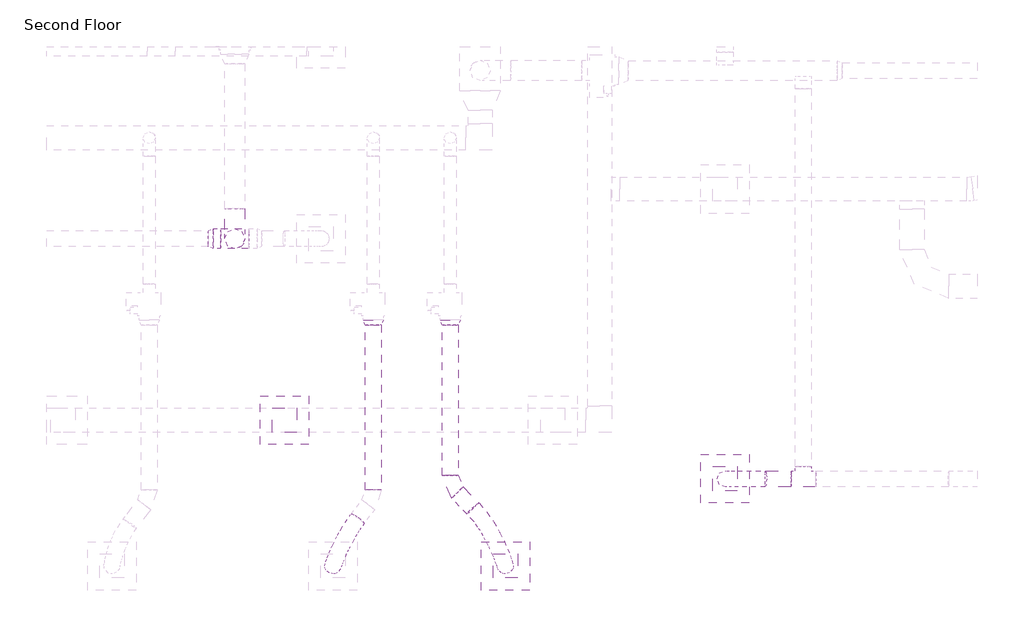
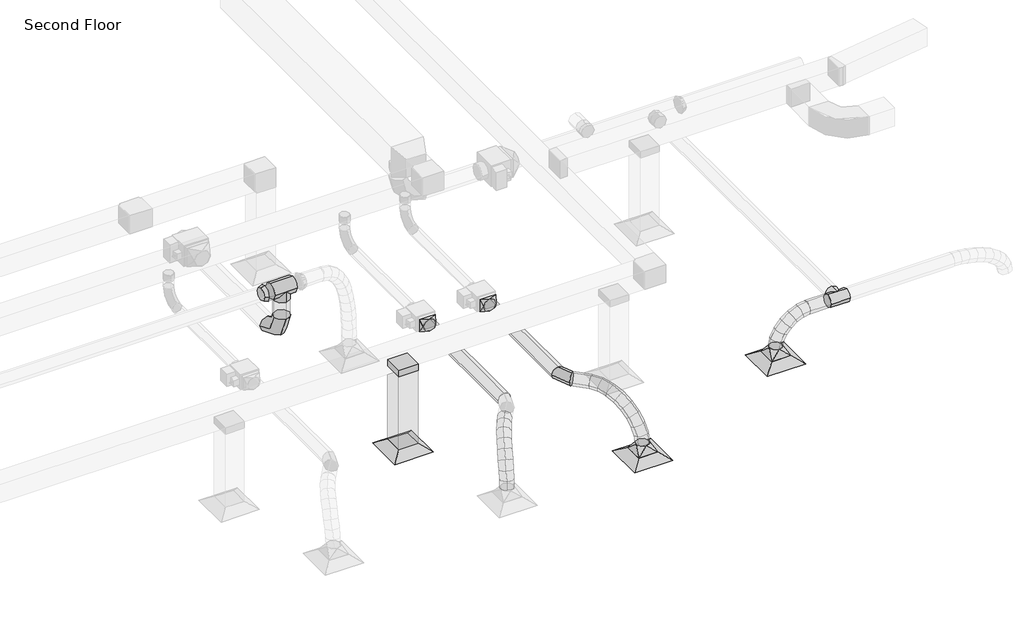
# One storey, part 8 of 44: 10 duct fittings, 10 duct segments, 3 air terminals.
"""IFC4 building model written with IfcOpenShell, lengths in millimetres."""

from ifc_helpers import new_model, si_unit, point, frame, frame_2d, origin, place, context, project, spatial, polyline, circle_curve, ellipse_curve, trimmed, segment, composite_curve, outline, extrude, transform, mapped, element, save
from ifc_brep_helpers import plane_surface, cylinder_surface, advanced_brep
from components import m_exhaust_grill_er_600_x_600_face_300_x_300_connection_ff221211, m_rectangular_takeoff_standard_c00386d1, m_rectangular_to_round_transition_angle_45_degree_60daae35, m_rectangular_to_round_transition_angle_45_degree_1b7ae117, m_round_elbow_1_5_d_f3829448, m_round_elbow_1_5_d_4a9a621c, m_round_tee_standard_d0ec91cd, m_round_tee_standard_11950e83, m_round_transition_angle_45_degree_f1400fe6

model = new_model("IFC4")

# Units and contexts
model_context = context("Model", 3, world=origin())
ifc_project = project(units=[si_unit("LENGTHUNIT", "METRE", prefix="MILLI")], contexts=[model_context])

# Site, building, storey
site = spatial("IfcSite", under=ifc_project)
building = spatial("IfcBuilding", under=site)
storey = spatial("IfcBuildingStorey", under=building, Name="Second Floor", Elevation=4570.0)

# Air terminals
placement = place(None, origin())
m_exhaust_grill_er_600_x_600_face_300_x_300_connection_shape = m_exhaust_grill_er_600_x_600_face_300_x_300_connection_ff221211(model_context)
element("IfcAirTerminal", 1, ObjectType="M_Return Register : RR-600 x 600 Face 300 x 300 Connection", at=placement, inside=storey, context=model_context, shape_type="MappedRepresentation", body=[
    mapped(m_exhaust_grill_er_600_x_600_face_300_x_300_connection_shape, transform((-30484.4701635, 12657.116341, 7250.0), x_axis=(1.0, 0.0, 0.0), y_axis=(0.0, 1.0, 0.0), z_axis=(0.0, 0.0, 1.0))),
])
element("IfcAirTerminal", 2, ObjectType="M_Supply Diffuser : SD-600 x 600 Face 300 x 300 Connection", at=placement, inside=storey, context=model_context, shape_type="MappedRepresentation", body=[
    mapped(m_exhaust_grill_er_600_x_600_face_300_x_300_connection_shape, transform((-25044.1448371, 11932.5353347, 7250.0), x_axis=(1.0, 0.0, 0.0), y_axis=(0.0, 1.0, 0.0), z_axis=(0.0, 0.0, 1.0))),
])
element("IfcAirTerminal", 3, ObjectType="M_Supply Diffuser : SD-600 x 600 Face 300 x 300 Connection", at=placement, inside=storey, context=model_context, shape_type="MappedRepresentation", body=[
    mapped(m_exhaust_grill_er_600_x_600_face_300_x_300_connection_shape, transform((-27756.7840351, 10855.5728123, 7250.0), x_axis=(1.0, 0.0, 0.0), y_axis=(0.0, 1.0, 0.0), z_axis=(0.0, 0.0, 1.0))),
])

# Duct fittings
m_rectangular_takeoff_standard_shape = m_rectangular_takeoff_standard_c00386d1(model_context)
element("IfcDuctFitting", 4, ObjectType="M_Rectangular Takeoff : Standard", at=placement, inside=storey, context=model_context, shape_type="MappedRepresentation", body=[
    mapped(m_rectangular_takeoff_standard_shape, transform((-30484.4701635, 12657.116341, 8670.0), x_axis=(0.0, 0.0, -1.0), y_axis=(0.0, 1.0, 0.0), z_axis=(1.0, 0.0, 0.0))),
])
m_rectangular_to_round_transition_angle_45_degree_shape = m_rectangular_to_round_transition_angle_45_degree_60daae35(model_context)
element("IfcDuctFitting", 5, ObjectType="M_Rectangular to Round Transition - Angle : 45 Degree", at=placement, inside=storey, context=model_context, shape_type="MappedRepresentation", body=[
    mapped(m_rectangular_to_round_transition_angle_45_degree_shape, transform((-27756.7840351, 10855.5728123, 7351.6), x_axis=(0.0, 0.0, 1.0), y_axis=(1.0, 0.0, 0.0), z_axis=(0.0, 1.0, 0.0))),
])
element("IfcDuctFitting", 6, ObjectType="M_Rectangular to Round Transition - Angle : 45 Degree", at=placement, inside=storey, context=model_context, shape_type="MappedRepresentation", body=[
    mapped(m_rectangular_to_round_transition_angle_45_degree_shape, transform((-25044.1448371, 11932.5353347, 7351.6), x_axis=(0.0, 0.0, 1.0), y_axis=(1.0, 0.0, 0.0), z_axis=(0.0, 1.0, 0.0))),
])
m_rectangular_to_round_transition_angle_45_degree_2_shape = m_rectangular_to_round_transition_angle_45_degree_1b7ae117(model_context)
element("IfcDuctFitting", 7, ObjectType="M_Rectangular to Round Transition - Angle : 45 Degree", at=placement, inside=storey, context=model_context, shape_type="MappedRepresentation", body=[
    mapped(m_rectangular_to_round_transition_angle_45_degree_2_shape, transform((-28438.8864557, 13891.8174916, 8189.05), x_axis=(0.0, -1.0, 0.0), y_axis=(1.0, 0.0, 0.0), z_axis=(0.0, 0.0, 1.0))),
])
element("IfcDuctFitting", 8, ObjectType="M_Rectangular to Round Transition - Angle : 45 Degree", at=placement, inside=storey, context=model_context, shape_type="MappedRepresentation", body=[
    mapped(m_rectangular_to_round_transition_angle_45_degree_2_shape, transform((-29388.5682282, 13891.8174916, 8189.05), x_axis=(0.0, -1.0, 0.0), y_axis=(1.0, 0.0, 0.0), z_axis=(0.0, 0.0, 1.0))),
])
m_round_elbow_1_5_d_shape = m_round_elbow_1_5_d_f3829448(model_context)
element("IfcDuctFitting", 9, ObjectType="M_Round Elbow : 1.5 D", at=placement, inside=storey, context=model_context, shape_type="MappedRepresentation", body=[
    mapped(m_round_elbow_1_5_d_shape, transform((-28438.8864557, 11848.6830646, 8189.1), x_axis=(0.0, -1.0, 0.0), y_axis=(1.0, 0.0, 0.0), z_axis=(0.0, 0.0, 1.0))),
])
m_round_elbow_1_5_d_2_shape = m_round_elbow_1_5_d_4a9a621c(model_context)
element("IfcDuctFitting", 10, ObjectType="M_Round Elbow : 1.5 D", at=placement, inside=storey, context=model_context, shape_type="MappedRepresentation", body=[
    mapped(m_round_elbow_1_5_d_2_shape, transform((-31098.3994281, 14899.476398, 7939.1), x_axis=(0.0, -1.0, 0.0), y_axis=(0.0, 0.0, 1.0), z_axis=(-1.0, 0.0, 0.0))),
])
m_round_tee_standard_shape = m_round_tee_standard_d0ec91cd(model_context)
element("IfcDuctFitting", 11, ObjectType="M_Round Tee : Standard", at=placement, inside=storey, context=model_context, shape_type="MappedRepresentation", body=[
    mapped(m_round_tee_standard_shape, transform((-24077.0880997, 11932.5353347, 7939.1), x_axis=(-1.0, 0.0, 0.0), y_axis=(0.0, -1.0, 0.0), z_axis=(0.0, 0.0, 1.0))),
])
m_round_tee_standard_2_shape = m_round_tee_standard_11950e83(model_context)
element("IfcDuctFitting", 12, ObjectType="M_Round Tee : Standard", at=placement, inside=storey, context=model_context, shape_type="MappedRepresentation", body=[
    mapped(m_round_tee_standard_2_shape, transform((-31098.3994281, 14899.476398, 8770.0), x_axis=(1.0, 0.0, 0.0), y_axis=(0.0, 0.0, 1.0), z_axis=(0.0, -1.0, 0.0))),
])
m_round_transition_angle_45_degree_shape = m_round_transition_angle_45_degree_f1400fe6(model_context)
element("IfcDuctFitting", 13, ObjectType="M_Round Transition - Angle : 45 Degree", at=placement, inside=storey, context=model_context, shape_type="MappedRepresentation", body=[
    mapped(m_round_transition_angle_45_degree_shape, transform((-31423.5066177, 14899.476398, 8770.0), x_axis=(1.0, 0.0, 0.0), y_axis=(0.0, 1.0, 0.0), z_axis=(0.0, 0.0, 1.0))),
])

# Duct segments
element("IfcDuctSegment", 14, ObjectType="Flex - Round", at=placement, inside=storey, context=model_context, shape_type="AdvancedBrep", body=[
    advanced_brep(
    [(-29497.8890212, 11383.5971069, 8189.1), (-29571.5417404, 11452.7195045, 8090.1183295), (-29661.5569145, 11498.5441411, 8189.1), (-29587.9041954, 11429.4217434, 8288.0816705), (-29565.9046767, 11286.7526851, 8172.0808828), (-29634.2238646, 11363.4692573, 8074.4337873), (-29733.142023, 11396.6173364, 8171.1877217), (-29664.8228351, 11319.9007643, 8268.8348172), (-29799.5639468, 10807.5244034, 7474.3208275), (-29935.1565217, 10768.6476595, 7484.482148), (-29974.9185556, 10903.6212211, 7470.3005288), (-29839.3259808, 10942.497965, 7460.1392083), (-29624.8106606, 11189.6901283, 8125.245008), (-29684.7903806, 11280.1480901, 8034.2285848), (-29797.0303638, 11291.3450823, 8120.3903981), (-29737.0506438, 11200.8871205, 8211.4068213), (-29676.240355, 11093.772452, 8052.2726018), (-29730.2333137, 11195.3958745, 7969.750656), (-29851.0316039, 11190.6314086, 8043.7692851), (-29797.0386452, 11089.0079861, 8126.2912309), (-29719.4346291, 11004.1066422, 7958.0897043), (-29768.8896513, 11115.1502427, 7885.4624961), (-29895.3479235, 11098.6363752, 7947.1398248), (-29845.8929013, 10987.5927747, 8019.7670331), (-29753.8190012, 10925.696645, 7847.8688738), (-29799.5915698, 11045.1376992, 7787.0459552), (-29929.9968533, 11019.6230815, 7836.0709413), (-29884.2242846, 10900.1820273, 7896.8938599), (-29778.9390074, 10863.4387072, 7726.7753104), (-29821.6139636, 10990.5569474, 7680.8847498), (-29954.8759065, 10957.9623265, 7716.1389164), (-29912.2009503, 10830.8440862, 7762.0294769), (-29794.3768651, 10822.2409268, 7599.8419427), (-29834.6245019, 10955.8367609, 7573.9093215), (-29969.8459151, 10918.0130576, 7593.0523037), (-29929.5982783, 10784.4172235, 7618.984925)],
    [
        (0, 1, circle_curve(frame((-29579.7229679, 11441.070624, 8189.1), z_axis=(0.568882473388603, 0.8100060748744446, 0.14234777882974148), x_axis=(0.8183394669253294, -0.5747351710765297, 0.0)), 100.0)),
        (1, 2, circle_curve(frame((-29579.7229679, 11441.070624, 8189.1), z_axis=(0.568882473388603, 0.8100060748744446, 0.14234777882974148), x_axis=(0.8183394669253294, -0.5747351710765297, 0.0)), 100.0)),
        (2, 3, circle_curve(frame((-29579.7229679, 11441.070624, 8189.1), z_axis=(0.568882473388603, 0.8100060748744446, 0.14234777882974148), x_axis=(0.8183394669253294, -0.5747351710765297, 0.0)), 100.0)),
        (3, 0, circle_curve(frame((-29579.7229679, 11441.070624, 8189.1), z_axis=(0.568882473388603, 0.8100060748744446, 0.14234777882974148), x_axis=(0.8183394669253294, -0.5747351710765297, 0.0)), 100.0)),
        (0, 4),
        (4, 5, ellipse_curve(frame((-29649.5233499, 11341.6850108, 8171.6343022), z_axis=(0.528592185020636, 0.8067759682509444, 0.26401295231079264), x_axis=(0.3488692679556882, 0.07706942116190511, -0.9339970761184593)), 100.8286174, 100.0)),
        (5, 1),
        (5, 6, ellipse_curve(frame((-29649.5233499, 11341.6850108, 8171.6343022), z_axis=(0.528592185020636, 0.8067759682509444, 0.26401295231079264), x_axis=(0.3488692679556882, 0.07706942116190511, -0.9339970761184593)), 100.8286174, 100.0)),
        (6, 2),
        (6, 7, ellipse_curve(frame((-29649.5233499, 11341.6850108, 8171.6343022), z_axis=(0.528592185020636, 0.8067759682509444, 0.26401295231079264), x_axis=(0.3488692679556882, 0.07706942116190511, -0.9339970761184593)), 100.8286174, 100.0)),
        (7, 3),
        (7, 4, ellipse_curve(frame((-29649.5233499, 11341.6850108, 8171.6343022), z_axis=(0.528592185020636, 0.8067759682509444, 0.26401295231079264), x_axis=(0.3488692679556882, 0.07706942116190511, -0.9339970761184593)), 100.8286174, 100.0)),
        (8, 9, circle_curve(frame((-29887.2412512, 10855.5728123, 7472.3106781), z_axis=(-0.04100872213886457, -0.1163478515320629, -0.9923615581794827), x_axis=(0.8767730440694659, -0.4804840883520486, 0.020101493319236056)), 100.0)),
        (9, 10, circle_curve(frame((-29887.2412512, 10855.5728123, 7472.3106781), z_axis=(-0.04100872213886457, -0.1163478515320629, -0.9923615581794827), x_axis=(0.8767730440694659, -0.4804840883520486, 0.020101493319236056)), 100.0)),
        (10, 11, circle_curve(frame((-29887.2412512, 10855.5728123, 7472.3106781), z_axis=(-0.04100872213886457, -0.1163478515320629, -0.9923615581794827), x_axis=(0.8767730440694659, -0.4804840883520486, 0.020101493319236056)), 100.0)),
        (11, 8, circle_curve(frame((-29887.2412512, 10855.5728123, 7472.3106781), z_axis=(-0.04100872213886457, -0.1163478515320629, -0.9923615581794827), x_axis=(0.8767730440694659, -0.4804840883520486, 0.020101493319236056)), 100.0)),
        (4, 12),
        (12, 13, ellipse_curve(frame((-29710.9205122, 11240.5176053, 8122.817703), z_axis=(0.4383477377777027, 0.7651519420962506, 0.4715864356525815), x_axis=(0.42611000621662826, 0.28505919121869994, -0.8585869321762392)), 100.5267215, 100.0)),
        (13, 5),
        (13, 14, ellipse_curve(frame((-29710.9205122, 11240.5176053, 8122.817703), z_axis=(0.4383477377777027, 0.7651519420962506, 0.4715864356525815), x_axis=(0.42611000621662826, 0.28505919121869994, -0.8585869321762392)), 100.5267215, 100.0)),
        (14, 6),
        (14, 15, ellipse_curve(frame((-29710.9205122, 11240.5176053, 8122.817703), z_axis=(0.4383477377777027, 0.7651519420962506, 0.4715864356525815), x_axis=(0.42611000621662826, 0.28505919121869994, -0.8585869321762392)), 100.5267215, 100.0)),
        (15, 7),
        (15, 12, ellipse_curve(frame((-29710.9205122, 11240.5176053, 8122.817703), z_axis=(0.4383477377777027, 0.7651519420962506, 0.4715864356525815), x_axis=(0.42611000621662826, 0.28505919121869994, -0.8585869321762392)), 100.5267215, 100.0)),
        (12, 16),
        (16, 17, ellipse_curve(frame((-29763.6359794, 11142.2019303, 8048.0209434), z_axis=(0.35514771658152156, 0.6957129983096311, 0.6243825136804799), x_axis=(0.45360584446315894, 0.45576696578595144, -0.7658447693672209)), 100.3646243, 100.0)),
        (17, 13),
        (17, 18, ellipse_curve(frame((-29763.6359794, 11142.2019303, 8048.0209434), z_axis=(0.35514771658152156, 0.6957129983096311, 0.6243825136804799), x_axis=(0.45360584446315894, 0.45576696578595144, -0.7658447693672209)), 100.3646243, 100.0)),
        (18, 14),
        (18, 19, ellipse_curve(frame((-29763.6359794, 11142.2019303, 8048.0209434), z_axis=(0.35514771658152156, 0.6957129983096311, 0.6243825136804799), x_axis=(0.45360584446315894, 0.45576696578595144, -0.7658447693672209)), 100.3646243, 100.0)),
        (19, 15),
        (19, 16, ellipse_curve(frame((-29763.6359794, 11142.2019303, 8048.0209434), z_axis=(0.35514771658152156, 0.6957129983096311, 0.6243825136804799), x_axis=(0.45360584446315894, 0.45576696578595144, -0.7658447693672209)), 100.3646243, 100.0)),
        (16, 20),
        (20, 21, ellipse_curve(frame((-29807.3912763, 11051.3715087, 7952.6147646), z_axis=(0.28163438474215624, 0.6099060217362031, 0.7407406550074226), x_axis=(0.4464182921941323, 0.6000610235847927, -0.6638053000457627)), 100.2987715, 100.0)),
        (21, 17),
        (21, 22, ellipse_curve(frame((-29807.3912763, 11051.3715087, 7952.6147646), z_axis=(0.28163438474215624, 0.6099060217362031, 0.7407406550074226), x_axis=(0.4464182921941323, 0.6000610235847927, -0.6638053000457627)), 100.2987715, 100.0)),
        (22, 18),
        (22, 23, ellipse_curve(frame((-29807.3912763, 11051.3715087, 7952.6147646), z_axis=(0.28163438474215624, 0.6099060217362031, 0.7407406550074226), x_axis=(0.4464182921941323, 0.6000610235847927, -0.6638053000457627)), 100.2987715, 100.0)),
        (23, 19),
        (23, 20, ellipse_curve(frame((-29807.3912763, 11051.3715087, 7952.6147646), z_axis=(0.28163438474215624, 0.6099060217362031, 0.7407406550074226), x_axis=(0.4464182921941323, 0.6000610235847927, -0.6638053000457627)), 100.2987715, 100.0)),
        (20, 24),
        (24, 25, ellipse_curve(frame((-29841.9079272, 10972.6598633, 7841.9699075), z_axis=(0.2145397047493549, 0.5072530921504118, 0.8346658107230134), x_axis=(0.41920572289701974, 0.7240290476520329, -0.5477668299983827)), 100.3013056, 100.0)),
        (25, 21),
        (25, 26, ellipse_curve(frame((-29841.9079272, 10972.6598633, 7841.9699075), z_axis=(0.2145397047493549, 0.5072530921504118, 0.8346658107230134), x_axis=(0.41920572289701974, 0.7240290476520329, -0.5477668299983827)), 100.3013056, 100.0)),
        (26, 22),
        (26, 27, ellipse_curve(frame((-29841.9079272, 10972.6598633, 7841.9699075), z_axis=(0.2145397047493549, 0.5072530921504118, 0.8346658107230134), x_axis=(0.41920572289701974, 0.7240290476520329, -0.5477668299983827)), 100.3013056, 100.0)),
        (27, 23),
        (27, 24, ellipse_curve(frame((-29841.9079272, 10972.6598633, 7841.9699075), z_axis=(0.2145397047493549, 0.5072530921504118, 0.8346658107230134), x_axis=(0.41920572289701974, 0.7240290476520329, -0.5477668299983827)), 100.3013056, 100.0)),
        (24, 28),
        (28, 29, ellipse_curve(frame((-29866.907457, 10910.7005168, 7721.4571134), z_axis=(0.14872586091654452, 0.37957456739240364, 0.9131285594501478), x_axis=(0.3852460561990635, 0.8282033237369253, -0.40701932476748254)), 100.3746817, 100.0)),
        (29, 25),
        (29, 30, ellipse_curve(frame((-29866.907457, 10910.7005168, 7721.4571134), z_axis=(0.14872586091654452, 0.37957456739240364, 0.9131285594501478), x_axis=(0.3852460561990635, 0.8282033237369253, -0.40701932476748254)), 100.3746817, 100.0)),
        (30, 26),
        (30, 31, ellipse_curve(frame((-29866.907457, 10910.7005168, 7721.4571134), z_axis=(0.14872586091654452, 0.37957456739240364, 0.9131285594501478), x_axis=(0.3852460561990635, 0.8282033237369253, -0.40701932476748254)), 100.3746817, 100.0)),
        (31, 27),
        (31, 28, ellipse_curve(frame((-29866.907457, 10910.7005168, 7721.4571134), z_axis=(0.14872586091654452, 0.37957456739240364, 0.9131285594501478), x_axis=(0.3852460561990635, 0.8282033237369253, -0.40701932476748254)), 100.3746817, 100.0)),
        (28, 32),
        (32, 33, ellipse_curve(frame((-29882.1113901, 10870.1269922, 7596.4471232), z_axis=(0.07839359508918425, 0.21267744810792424, 0.9739726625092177), x_axis=(0.35257718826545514, 0.9079243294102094, -0.2266334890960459)), 100.5538087, 100.0)),
        (33, 29),
        (33, 34, ellipse_curve(frame((-29882.1113901, 10870.1269922, 7596.4471232), z_axis=(0.07839359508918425, 0.21267744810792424, 0.9739726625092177), x_axis=(0.35257718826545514, 0.9079243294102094, -0.2266334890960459)), 100.5538087, 100.0)),
        (34, 30),
        (34, 35, ellipse_curve(frame((-29882.1113901, 10870.1269922, 7596.4471232), z_axis=(0.07839359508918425, 0.21267744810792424, 0.9739726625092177), x_axis=(0.35257718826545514, 0.9079243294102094, -0.2266334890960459)), 100.5538087, 100.0)),
        (35, 31),
        (35, 32, ellipse_curve(frame((-29882.1113901, 10870.1269922, 7596.4471232), z_axis=(0.07839359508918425, 0.21267744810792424, 0.9739726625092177), x_axis=(0.35257718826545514, 0.9079243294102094, -0.2266334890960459)), 100.5538087, 100.0)),
        (32, 8),
        (11, 33),
        (10, 34),
        (9, 35),
    ],
    [
        plane_surface(frame((-29579.7229679, 11458.3790529, 8090.6092985), z_axis=(0.5688824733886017, 0.8100060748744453, 0.14234777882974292), x_axis=(0.8224188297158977, -0.560296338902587, -0.09846461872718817))),
        cylinder_surface(frame((-29579.7229679, 11441.070624, 8189.1), z_axis=(0.5688824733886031, 0.8100060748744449, 0.1423477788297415), x_axis=(0.8183394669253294, -0.5747351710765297, 0.0)), 100.0),
        plane_surface(frame((-29887.2412512, 10954.892517, 7460.6660974), z_axis=(-0.04100872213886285, -0.11634785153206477, -0.9923615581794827), x_axis=(0.9991587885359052, -0.004775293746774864, -0.040729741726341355))),
        cylinder_surface(frame((-29649.5233499, 11341.6850108, 8171.6343022), z_axis=(0.47961387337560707, 0.7902855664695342, 0.381338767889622), x_axis=(0.8512334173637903, -0.5245300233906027, 0.016429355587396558)), 100.0),
        cylinder_surface(frame((-29710.9205122, 11240.5176053, 8122.817703), z_axis=(0.3924880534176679, 0.73200011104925, 0.5568922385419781), x_axis=(0.8691715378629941, -0.49321838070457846, 0.03572767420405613)), 100.0),
        cylinder_surface(frame((-29763.6359794, 11142.2019303, 8048.0209434), z_axis=(0.3152268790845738, 0.6543708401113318, 0.6873360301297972), x_axis=(0.8777990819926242, -0.47631754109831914, 0.05089569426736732)), 100.0),
        cylinder_surface(frame((-29807.3912763, 11051.3715087, 7952.6147646), z_axis=(0.24636401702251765, 0.5618076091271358, 0.7897322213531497), x_axis=(0.8809477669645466, -0.46949876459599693, 0.05917720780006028)), 100.0),
        cylinder_surface(frame((-29841.9079272, 10972.6598633, 7841.9699075), z_axis=(0.18142643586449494, 0.44965099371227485, 0.8745847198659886), x_axis=(0.8808461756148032, -0.4697389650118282, 0.05878196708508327)), 100.0),
        cylinder_surface(frame((-29866.907457, 10910.7005168, 7721.4571134), z_axis=(0.11491494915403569, 0.30666436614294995, 0.944855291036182), x_axis=(0.8789486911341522, -0.47458167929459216, 0.047132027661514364)), 100.0),
        cylinder_surface(frame((-29882.1113901, 10870.1269922, 7596.4471232), z_axis=(0.04100872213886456, 0.11634785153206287, 0.9923615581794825), x_axis=(0.8767730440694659, -0.4804840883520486, 0.020101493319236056)), 100.0),
    ],
    [
        (0, [[1, 2, 3, 4]]),
        (1, [[-1, 5, 6, 7]]),
        (1, [[-2, -7, 8, 9]]),
        (1, [[-3, -9, 10, 11]]),
        (1, [[-4, -11, 12, -5]]),
        (2, [[13, 14, 15, 16]]),
        (3, [[-6, 17, 18, 19]]),
        (3, [[-8, -19, 20, 21]]),
        (3, [[-10, -21, 22, 23]]),
        (3, [[-12, -23, 24, -17]]),
        (4, [[-18, 25, 26, 27]]),
        (4, [[-20, -27, 28, 29]]),
        (4, [[-22, -29, 30, 31]]),
        (4, [[-24, -31, 32, -25]]),
        (5, [[-26, 33, 34, 35]]),
        (5, [[-28, -35, 36, 37]]),
        (5, [[-30, -37, 38, 39]]),
        (5, [[-32, -39, 40, -33]]),
        (6, [[-34, 41, 42, 43]]),
        (6, [[-36, -43, 44, 45]]),
        (6, [[-38, -45, 46, 47]]),
        (6, [[-40, -47, 48, -41]]),
        (7, [[-42, 49, 50, 51]]),
        (7, [[-44, -51, 52, 53]]),
        (7, [[-46, -53, 54, 55]]),
        (7, [[-48, -55, 56, -49]]),
        (8, [[-50, 57, 58, 59]]),
        (8, [[-52, -59, 60, 61]]),
        (8, [[-54, -61, 62, 63]]),
        (8, [[-56, -63, 64, -57]]),
        (9, [[-58, 65, -16, 66]]),
        (9, [[-60, -66, -15, 67]]),
        (9, [[-62, -67, -14, 68]]),
        (9, [[-64, -68, -13, -65]]),
    ],
),
])
element("IfcDuctSegment", 15, ObjectType="Flex - Round", at=placement, inside=storey, context=model_context, shape_type="AdvancedBrep", body=[
    advanced_brep(
    [(-28080.6536508, 11631.5391645, 8189.1), (-28163.5986815, 11574.5097248, 8089.7633759), (-28231.4338357, 11500.1415396, 8189.1), (-28148.4888049, 11557.1709793, 8288.4366241), (-27986.5916917, 11523.602057, 8172.5262607), (-28079.4984923, 11478.0038551, 8074.9449028), (-28144.3073822, 11400.1629991, 8173.7482984), (-28051.4005815, 11445.7612009, 8271.3296563), (-27669.865886, 10904.928654, 7469.2715586), (-27707.5770427, 10769.8518193, 7487.4956466), (-27843.7021841, 10806.2169705, 7475.3497976), (-27805.9910274, 10941.2938052, 7457.1257097), (-27902.1337139, 11401.8093573, 8124.6632392), (-28009.6944549, 11377.3428828, 8035.3863882), (-28069.3658023, 11292.0934292, 8131.2782968), (-27961.8050613, 11316.5599037, 8220.5551478), (-27831.206781, 11279.2627457, 8051.8215176), (-27948.3100511, 11271.2837261, 7972.344812), (-28003.4123887, 11178.1399982, 8063.5443629), (-27886.3091185, 11186.1190177, 8143.0210685), (-27773.2303095, 11163.0203005, 7958.6284926), (-27896.993348, 11168.3940729, 7889.8568877), (-27947.7580809, 11066.5534759, 7974.0840497), (-27823.9950423, 11061.1797035, 8042.8556547), (-27728.0551716, 11060.3006043, 7849.5006763), (-27856.8342201, 11077.0798321, 7792.8460507), (-27903.2823629, 10965.4241281, 7866.6457948), (-27774.5033144, 10948.6449003, 7923.3004204), (-27695.7518105, 10978.4434632, 7728.9666062), (-27828.472585, 11005.2110766, 7687.0198088), (-27870.645148, 10882.720997, 7744.8660104), (-27737.9243734, 10855.9533836, 7786.8128077), (-27676.4251831, 10924.6406678, 7601.8037187), (-27812.0071303, 10959.3734106, 7578.6825019), (-27850.4718352, 10826.5611404, 7612.1322097), (-27714.8898879, 10791.8283976, 7635.2534265)],
    [
        (0, 1, circle_curve(frame((-28156.0437432, 11565.8403521, 8189.1), z_axis=(-0.6526298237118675, 0.748899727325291, 0.11499352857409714), x_axis=(0.7539009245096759, 0.6569881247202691, 0.0)), 100.0)),
        (1, 2, circle_curve(frame((-28156.0437432, 11565.8403521, 8189.1), z_axis=(-0.6526298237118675, 0.748899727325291, 0.11499352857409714), x_axis=(0.7539009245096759, 0.6569881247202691, 0.0)), 100.0)),
        (2, 3, circle_curve(frame((-28156.0437432, 11565.8403521, 8189.1), z_axis=(-0.6526298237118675, 0.748899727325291, 0.11499352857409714), x_axis=(0.7539009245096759, 0.6569881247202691, 0.0)), 100.0)),
        (3, 0, circle_curve(frame((-28156.0437432, 11565.8403521, 8189.1), z_axis=(-0.6526298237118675, 0.748899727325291, 0.11499352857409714), x_axis=(0.7539009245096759, 0.6569881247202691, 0.0)), 100.0)),
        (0, 4),
        (4, 5, ellipse_curve(frame((-28065.4495369, 11461.882528, 8173.1372795), z_axis=(-0.6012404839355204, 0.7702969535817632, 0.21249113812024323), x_axis=(-0.4922578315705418, -0.1475798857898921, -0.8578475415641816)), 100.6342215, 100.0)),
        (5, 1),
        (5, 6, ellipse_curve(frame((-28065.4495369, 11461.882528, 8173.1372795), z_axis=(-0.6012404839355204, 0.7702969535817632, 0.21249113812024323), x_axis=(-0.4922578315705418, -0.1475798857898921, -0.8578475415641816)), 100.6342215, 100.0)),
        (6, 2),
        (6, 7, ellipse_curve(frame((-28065.4495369, 11461.882528, 8173.1372795), z_axis=(-0.6012404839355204, 0.7702969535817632, 0.21249113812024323), x_axis=(-0.4922578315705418, -0.1475798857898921, -0.8578475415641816)), 100.6342215, 100.0)),
        (7, 3),
        (7, 4, ellipse_curve(frame((-28065.4495369, 11461.882528, 8173.1372795), z_axis=(-0.6012404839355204, 0.7702969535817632, 0.21249113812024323), x_axis=(-0.4922578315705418, -0.1475798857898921, -0.8578475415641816)), 100.6342215, 100.0)),
        (8, 9, circle_curve(frame((-27756.7840351, 10855.5728123, 7472.3106781), z_axis=(0.048895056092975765, -0.14693952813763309, -0.9879362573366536), x_axis=(0.8691814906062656, 0.49355841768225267, -0.030391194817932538)), 100.0)),
        (9, 10, circle_curve(frame((-27756.7840351, 10855.5728123, 7472.3106781), z_axis=(0.048895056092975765, -0.14693952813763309, -0.9879362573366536), x_axis=(0.8691814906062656, 0.49355841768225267, -0.030391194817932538)), 100.0)),
        (10, 11, circle_curve(frame((-27756.7840351, 10855.5728123, 7472.3106781), z_axis=(0.048895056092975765, -0.14693952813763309, -0.9879362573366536), x_axis=(0.8691814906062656, 0.49355841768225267, -0.030391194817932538)), 100.0)),
        (11, 8, circle_curve(frame((-27756.7840351, 10855.5728123, 7472.3106781), z_axis=(0.048895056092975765, -0.14693952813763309, -0.9879362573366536), x_axis=(0.8691814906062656, 0.49355841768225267, -0.030391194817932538)), 100.0)),
        (4, 12),
        (12, 13, ellipse_curve(frame((-27985.7497581, 11346.9513933, 8127.970768), z_axis=(-0.49584687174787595, 0.7789317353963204, 0.3839286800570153), x_axis=(-0.5406912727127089, 0.06904227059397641, -0.8383830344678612)), 100.4033731, 100.0)),
        (13, 5),
        (13, 14, ellipse_curve(frame((-27985.7497581, 11346.9513933, 8127.970768), z_axis=(-0.49584687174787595, 0.7789317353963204, 0.3839286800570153), x_axis=(-0.5406912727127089, 0.06904227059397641, -0.8383830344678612)), 100.4033731, 100.0)),
        (14, 6),
        (14, 15, ellipse_curve(frame((-27985.7497581, 11346.9513933, 8127.970768), z_axis=(-0.49584687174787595, 0.7789317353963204, 0.3839286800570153), x_axis=(-0.5406912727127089, 0.06904227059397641, -0.8383830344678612)), 100.4033731, 100.0)),
        (15, 7),
        (15, 12, ellipse_curve(frame((-27985.7497581, 11346.9513933, 8127.970768), z_axis=(-0.49584687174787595, 0.7789317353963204, 0.3839286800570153), x_axis=(-0.5406912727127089, 0.06904227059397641, -0.8383830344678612)), 100.4033731, 100.0)),
        (12, 16),
        (16, 17, ellipse_curve(frame((-27917.3095848, 11228.7013719, 8057.6829403), z_axis=(-0.40528000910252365, 0.7506555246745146, 0.5217896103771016), x_axis=(-0.5299685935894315, 0.2721548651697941, -0.8031593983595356)), 100.3064482, 100.0)),
        (17, 13),
        (17, 18, ellipse_curve(frame((-27917.3095848, 11228.7013719, 8057.6829403), z_axis=(-0.40528000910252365, 0.7506555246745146, 0.5217896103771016), x_axis=(-0.5299685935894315, 0.2721548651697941, -0.8031593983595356)), 100.3064482, 100.0)),
        (18, 14),
        (18, 19, ellipse_curve(frame((-27917.3095848, 11228.7013719, 8057.6829403), z_axis=(-0.40528000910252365, 0.7506555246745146, 0.5217896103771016), x_axis=(-0.5299685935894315, 0.2721548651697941, -0.8031593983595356)), 100.3064482, 100.0)),
        (19, 15),
        (19, 16, ellipse_curve(frame((-27917.3095848, 11228.7013719, 8057.6829403), z_axis=(-0.40528000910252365, 0.7506555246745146, 0.5217896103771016), x_axis=(-0.5299685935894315, 0.2721548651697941, -0.8031593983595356)), 100.3064482, 100.0)),
        (16, 20),
        (20, 21, ellipse_curve(frame((-27860.4941952, 11114.7868882, 7966.3562712), z_axis=(-0.3265902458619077, 0.6937173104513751, 0.6419463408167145), x_axis=(-0.4823993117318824, 0.46172335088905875, -0.7443805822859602)), 100.2957649, 100.0)),
        (21, 17),
        (21, 22, ellipse_curve(frame((-27860.4941952, 11114.7868882, 7966.3562712), z_axis=(-0.3265902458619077, 0.6937173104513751, 0.6419463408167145), x_axis=(-0.4823993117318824, 0.46172335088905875, -0.7443805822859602)), 100.2957649, 100.0)),
        (22, 18),
        (22, 23, ellipse_curve(frame((-27860.4941952, 11114.7868882, 7966.3562712), z_axis=(-0.3265902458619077, 0.6937173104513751, 0.6419463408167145), x_axis=(-0.4823993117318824, 0.46172335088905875, -0.7443805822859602)), 100.2957649, 100.0)),
        (23, 19),
        (23, 20, ellipse_curve(frame((-27860.4941952, 11114.7868882, 7966.3562712), z_axis=(-0.3265902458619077, 0.6937173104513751, 0.6419463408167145), x_axis=(-0.4823993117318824, 0.46172335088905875, -0.7443805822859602)), 100.2957649, 100.0)),
        (20, 24),
        (24, 25, ellipse_curve(frame((-27815.6687673, 11012.8623662, 7858.0732356), z_axis=(-0.253451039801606, 0.6045630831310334, 0.7551596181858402), x_axis=(-0.4235615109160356, 0.632481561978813, -0.6485080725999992)), 100.364737, 100.0)),
        (25, 21),
        (25, 26, ellipse_curve(frame((-27815.6687673, 11012.8623662, 7858.0732356), z_axis=(-0.253451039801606, 0.6045630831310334, 0.7551596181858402), x_axis=(-0.4235615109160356, 0.632481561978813, -0.6485080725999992)), 100.364737, 100.0)),
        (26, 22),
        (26, 27, ellipse_curve(frame((-27815.6687673, 11012.8623662, 7858.0732356), z_axis=(-0.253451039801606, 0.6045630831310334, 0.7551596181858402), x_axis=(-0.4235615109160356, 0.632481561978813, -0.6485080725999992)), 100.364737, 100.0)),
        (27, 23),
        (27, 24, ellipse_curve(frame((-27815.6687673, 11012.8623662, 7858.0732356), z_axis=(-0.253451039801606, 0.6045630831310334, 0.7551596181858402), x_axis=(-0.4235615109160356, 0.632481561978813, -0.6485080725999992)), 100.364737, 100.0)),
        (24, 28),
        (28, 29, ellipse_curve(frame((-27783.1984792, 10930.5822301, 7736.9163083), z_axis=(-0.17850678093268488, 0.4697506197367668, 0.8645632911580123), x_axis=(-0.3736207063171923, 0.7805039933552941, -0.5012195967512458)), 100.5469309, 100.0)),
        (29, 25),
        (29, 30, ellipse_curve(frame((-27783.1984792, 10930.5822301, 7736.9163083), z_axis=(-0.17850678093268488, 0.4697506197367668, 0.8645632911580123), x_axis=(-0.3736207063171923, 0.7805039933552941, -0.5012195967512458)), 100.5469309, 100.0)),
        (30, 26),
        (30, 31, ellipse_curve(frame((-27783.1984792, 10930.5822301, 7736.9163083), z_axis=(-0.17850678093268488, 0.4697506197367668, 0.8645632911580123), x_axis=(-0.3736207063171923, 0.7805039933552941, -0.5012195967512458)), 100.5469309, 100.0)),
        (31, 27),
        (31, 28, ellipse_curve(frame((-27783.1984792, 10930.5822301, 7736.9163083), z_axis=(-0.17850678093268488, 0.4697506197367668, 0.8645632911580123), x_axis=(-0.3736207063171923, 0.7805039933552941, -0.5012195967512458)), 100.5469309, 100.0)),
        (28, 32),
        (32, 33, ellipse_curve(frame((-27763.4485091, 10875.6009041, 7606.9679642), z_axis=(-0.09459927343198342, 0.26881162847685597, 0.9585360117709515), x_axis=(-0.3369484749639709, 0.8973791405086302, -0.284914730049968)), 100.8983005, 100.0)),
        (33, 29),
        (33, 34, ellipse_curve(frame((-27763.4485091, 10875.6009041, 7606.9679642), z_axis=(-0.09459927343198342, 0.26881162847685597, 0.9585360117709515), x_axis=(-0.3369484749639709, 0.8973791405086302, -0.284914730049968)), 100.8983005, 100.0)),
        (34, 30),
        (34, 35, ellipse_curve(frame((-27763.4485091, 10875.6009041, 7606.9679642), z_axis=(-0.09459927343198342, 0.26881162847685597, 0.9585360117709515), x_axis=(-0.3369484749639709, 0.8973791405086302, -0.284914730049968)), 100.8983005, 100.0)),
        (35, 31),
        (35, 32, ellipse_curve(frame((-27763.4485091, 10875.6009041, 7606.9679642), z_axis=(-0.09459927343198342, 0.26881162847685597, 0.9585360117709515), x_axis=(-0.3369484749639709, 0.8973791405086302, -0.284914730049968)), 100.8983005, 100.0)),
        (32, 8),
        (11, 33),
        (10, 34),
        (9, 35),
    ],
    [
        plane_surface(frame((-28156.0437432, 11581.0174712, 8090.2584346), z_axis=(-0.6526298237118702, 0.7488997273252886, 0.11499352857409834), x_axis=(0.7576769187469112, 0.6450695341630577, 0.09905040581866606))),
        cylinder_surface(frame((-28156.0437432, 11565.8403521, 8189.1), z_axis=(-0.6526298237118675, 0.748899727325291, 0.11499352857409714), x_axis=(0.7539009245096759, 0.6569881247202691, 0.0)), 100.0),
        plane_surface(frame((-27756.7840351, 10954.4847445, 7457.5991291), z_axis=(0.04889505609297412, -0.14693952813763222, -0.9879362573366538), x_axis=(0.9988039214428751, 0.007193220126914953, 0.0483630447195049))),
        cylinder_surface(frame((-28065.4495369, 11461.882528, 8173.1372795), z_axis=(-0.5422728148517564, 0.7819849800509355, 0.30731040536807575), x_axis=(0.8173921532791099, 0.5756444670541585, -0.022439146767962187)), 100.0),
        cylinder_surface(frame((-27985.7497581, 11346.9513933, 8127.970768), z_axis=(-0.44543677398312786, 0.7696197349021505, 0.4574620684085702), x_axis=(0.8515771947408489, 0.5219427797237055, -0.04890824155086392)), 100.0),
        cylinder_surface(frame((-27917.3095848, 11228.7013719, 8057.6829403), z_axis=(-0.3626468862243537, 0.7271046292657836, 0.5829288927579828), x_axis=(0.8687223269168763, 0.49018673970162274, -0.07098224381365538)), 100.0),
        cylinder_surface(frame((-27860.4941952, 11114.7868882, 7966.3562712), z_axis=(-0.2886074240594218, 0.6562385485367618, 0.6971776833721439), x_axis=(0.875755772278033, 0.4752468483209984, -0.08480719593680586)), 100.0),
        cylinder_surface(frame((-27815.6687673, 11012.8623662, 7858.0732356), z_axis=(-0.2164525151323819, 0.5484935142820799, 0.8076528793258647), x_axis=(0.8764210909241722, 0.4736598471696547, -0.08678951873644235)), 100.0),
        cylinder_surface(frame((-27783.1984792, 10930.5822301, 7736.9163083), z_axis=(-0.13861905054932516, 0.3858972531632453, 0.9120680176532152), x_axis=(0.8732150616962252, 0.48209669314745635, -0.07126173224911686)), 100.0),
        cylinder_surface(frame((-27763.4485091, 10875.6009041, 7606.9679642), z_axis=(-0.04889505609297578, 0.1469395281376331, 0.9879362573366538), x_axis=(0.8691814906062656, 0.49355841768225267, -0.030391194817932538)), 100.0),
    ],
    [
        (0, [[1, 2, 3, 4]]),
        (1, [[-1, 5, 6, 7]]),
        (1, [[-2, -7, 8, 9]]),
        (1, [[-3, -9, 10, 11]]),
        (1, [[-4, -11, 12, -5]]),
        (2, [[13, 14, 15, 16]]),
        (3, [[-6, 17, 18, 19]]),
        (3, [[-8, -19, 20, 21]]),
        (3, [[-10, -21, 22, 23]]),
        (3, [[-12, -23, 24, -17]]),
        (4, [[-18, 25, 26, 27]]),
        (4, [[-20, -27, 28, 29]]),
        (4, [[-22, -29, 30, 31]]),
        (4, [[-24, -31, 32, -25]]),
        (5, [[-26, 33, 34, 35]]),
        (5, [[-28, -35, 36, 37]]),
        (5, [[-30, -37, 38, 39]]),
        (5, [[-32, -39, 40, -33]]),
        (6, [[-34, 41, 42, 43]]),
        (6, [[-36, -43, 44, 45]]),
        (6, [[-38, -45, 46, 47]]),
        (6, [[-40, -47, 48, -41]]),
        (7, [[-42, 49, 50, 51]]),
        (7, [[-44, -51, 52, 53]]),
        (7, [[-46, -53, 54, 55]]),
        (7, [[-48, -55, 56, -49]]),
        (8, [[-50, 57, 58, 59]]),
        (8, [[-52, -59, 60, 61]]),
        (8, [[-54, -61, 62, 63]]),
        (8, [[-56, -63, 64, -57]]),
        (9, [[-58, 65, -16, 66]]),
        (9, [[-60, -66, -15, 67]]),
        (9, [[-62, -67, -14, 68]]),
        (9, [[-64, -68, -13, -65]]),
    ],
),
])
element("IfcDuctSegment", 16, ObjectType="Flex - Round", at=placement, inside=storey, context=model_context, shape_type="AdvancedBrep", body=[
    advanced_brep(
    [(-24547.0880997, 11832.5353347, 7939.1), (-24531.0609493, 11932.5353347, 7840.3927032), (-24547.0880997, 12032.5353347, 7939.1), (-24563.1152501, 11932.5353347, 8037.8072968), (-24662.8281876, 11832.5353347, 7920.3072272), (-24633.6729727, 11932.5353347, 7823.7315404), (-24662.8281876, 12032.5353347, 7920.3072272), (-24691.9834024, 11932.5353347, 8016.8829141), (-25044.1448371, 11832.5353347, 7472.3106781), (-25142.4704548, 11932.5353347, 7490.5335456), (-25044.1448371, 12032.5353347, 7472.3106781), (-24945.8192193, 11932.5353347, 7454.0878107), (-24776.9736312, 11832.5353347, 7868.5900312), (-24725.8052889, 11932.5353347, 7781.9880865), (-24776.9736312, 12032.5353347, 7868.5900312), (-24828.1419735, 11932.5353347, 7955.1919758), (-24880.8512243, 11832.5353347, 7790.940095), (-24812.6346728, 11932.5353347, 7717.0819223), (-24880.8512243, 12032.5353347, 7790.940095), (-24949.0677757, 11932.5353347, 7864.7982676), (-24965.7877605, 11832.5353347, 7694.3491019), (-24882.8836868, 11932.5353347, 7637.1937807), (-24965.7877605, 12032.5353347, 7694.3491019), (-25048.6918342, 11932.5353347, 7751.504423), (-25023.1100335, 11832.5353347, 7585.8087352), (-24927.5631101, 11932.5353347, 7552.5927918), (-25023.1100335, 12032.5353347, 7585.8087352), (-25118.656957, 11932.5353347, 7619.0246786)],
    [
        (0, 1, circle_curve(frame((-24547.0880997, 11932.5353347, 7939.1), z_axis=(0.9870729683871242, 0.0, 0.16027150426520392), x_axis=(0.0, -1.0, 0.0)), 100.0)),
        (1, 2, circle_curve(frame((-24547.0880997, 11932.5353347, 7939.1), z_axis=(0.9870729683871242, 0.0, 0.16027150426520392), x_axis=(0.0, -1.0, 0.0)), 100.0)),
        (2, 3, circle_curve(frame((-24547.0880997, 11932.5353347, 7939.1), z_axis=(0.9870729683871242, 0.0, 0.16027150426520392), x_axis=(0.0, -1.0, 0.0)), 100.0)),
        (3, 0, circle_curve(frame((-24547.0880997, 11932.5353347, 7939.1), z_axis=(0.9870729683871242, 0.0, 0.16027150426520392), x_axis=(0.0, -1.0, 0.0)), 100.0)),
        (0, 4),
        (4, 5, ellipse_curve(frame((-24662.8281876, 11932.5353347, 7920.3072272), z_axis=(0.9573269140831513, 0.0, 0.289007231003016), x_axis=(0.28900723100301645, 0.0, -0.9573269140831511)), 100.8805721, 100.0)),
        (5, 1),
        (5, 6, ellipse_curve(frame((-24662.8281876, 11932.5353347, 7920.3072272), z_axis=(0.9573269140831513, 0.0, 0.289007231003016), x_axis=(0.28900723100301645, 0.0, -0.9573269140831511)), 100.8805721, 100.0)),
        (6, 2),
        (6, 7, ellipse_curve(frame((-24662.8281876, 11932.5353347, 7920.3072272), z_axis=(0.9573269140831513, 0.0, 0.289007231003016), x_axis=(0.28900723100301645, 0.0, -0.9573269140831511)), 100.8805721, 100.0)),
        (7, 3),
        (7, 4, ellipse_curve(frame((-24662.8281876, 11932.5353347, 7920.3072272), z_axis=(0.9573269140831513, 0.0, 0.289007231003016), x_axis=(0.28900723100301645, 0.0, -0.9573269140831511)), 100.8805721, 100.0)),
        (8, 9, circle_curve(frame((-25044.1448371, 11932.5353347, 7472.3106781), z_axis=(-0.1822286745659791, 0.0, -0.9832561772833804), x_axis=(0.0, -1.0, 0.0)), 100.0)),
        (9, 10, circle_curve(frame((-25044.1448371, 11932.5353347, 7472.3106781), z_axis=(-0.1822286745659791, 0.0, -0.9832561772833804), x_axis=(0.0, -1.0, 0.0)), 100.0)),
        (10, 11, circle_curve(frame((-25044.1448371, 11932.5353347, 7472.3106781), z_axis=(-0.1822286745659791, 0.0, -0.9832561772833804), x_axis=(0.0, -1.0, 0.0)), 100.0)),
        (11, 8, circle_curve(frame((-25044.1448371, 11932.5353347, 7472.3106781), z_axis=(-0.1822286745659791, 0.0, -0.9832561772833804), x_axis=(0.0, -1.0, 0.0)), 100.0)),
        (4, 12),
        (12, 13, ellipse_curve(frame((-24776.9736312, 11932.5353347, 7868.5900312), z_axis=(0.8609506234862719, 0.0, 0.5086885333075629), x_axis=(0.5086885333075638, 0.0, -0.8609506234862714)), 100.5887472, 100.0)),
        (13, 5),
        (13, 14, ellipse_curve(frame((-24776.9736312, 11932.5353347, 7868.5900312), z_axis=(0.8609506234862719, 0.0, 0.5086885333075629), x_axis=(0.5086885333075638, 0.0, -0.8609506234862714)), 100.5887472, 100.0)),
        (14, 6),
        (14, 15, ellipse_curve(frame((-24776.9736312, 11932.5353347, 7868.5900312), z_axis=(0.8609506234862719, 0.0, 0.5086885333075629), x_axis=(0.5086885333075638, 0.0, -0.8609506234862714)), 100.5887472, 100.0)),
        (15, 7),
        (15, 12, ellipse_curve(frame((-24776.9736312, 11932.5353347, 7868.5900312), z_axis=(0.8609506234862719, 0.0, 0.5086885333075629), x_axis=(0.5086885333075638, 0.0, -0.8609506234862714)), 100.5887472, 100.0)),
        (12, 16),
        (16, 17, ellipse_curve(frame((-24880.8512243, 11932.5353347, 7790.940095), z_axis=(0.734606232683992, 0.0, 0.6784936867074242), x_axis=(0.6784936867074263, 0.0, -0.7346062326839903)), 100.5411735, 100.0)),
        (17, 13),
        (17, 18, ellipse_curve(frame((-24880.8512243, 11932.5353347, 7790.940095), z_axis=(0.734606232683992, 0.0, 0.6784936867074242), x_axis=(0.6784936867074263, 0.0, -0.7346062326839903)), 100.5411735, 100.0)),
        (18, 14),
        (18, 19, ellipse_curve(frame((-24880.8512243, 11932.5353347, 7790.940095), z_axis=(0.734606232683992, 0.0, 0.6784936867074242), x_axis=(0.6784936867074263, 0.0, -0.7346062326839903)), 100.5411735, 100.0)),
        (19, 15),
        (19, 16, ellipse_curve(frame((-24880.8512243, 11932.5353347, 7790.940095), z_axis=(0.734606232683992, 0.0, 0.6784936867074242), x_axis=(0.6784936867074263, 0.0, -0.7346062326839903)), 100.5411735, 100.0)),
        (16, 20),
        (20, 21, ellipse_curve(frame((-24965.7877605, 11932.5353347, 7694.3491019), z_axis=(0.567599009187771, 0.0, 0.8233051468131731), x_axis=(0.8233051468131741, 0.0, -0.5675990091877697)), 100.6966542, 100.0)),
        (21, 17),
        (21, 22, ellipse_curve(frame((-24965.7877605, 11932.5353347, 7694.3491019), z_axis=(0.567599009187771, 0.0, 0.8233051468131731), x_axis=(0.8233051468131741, 0.0, -0.5675990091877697)), 100.6966542, 100.0)),
        (22, 18),
        (22, 23, ellipse_curve(frame((-24965.7877605, 11932.5353347, 7694.3491019), z_axis=(0.567599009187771, 0.0, 0.8233051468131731), x_axis=(0.8233051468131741, 0.0, -0.5675990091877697)), 100.6966542, 100.0)),
        (23, 19),
        (23, 20, ellipse_curve(frame((-24965.7877605, 11932.5353347, 7694.3491019), z_axis=(0.567599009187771, 0.0, 0.8233051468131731), x_axis=(0.8233051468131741, 0.0, -0.5675990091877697)), 100.6966542, 100.0)),
        (20, 24),
        (24, 25, ellipse_curve(frame((-25023.1100335, 11932.5353347, 7585.8087352), z_axis=(0.32836391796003, 0.0, 0.9445512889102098), x_axis=(0.9445512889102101, 0.0, -0.32836391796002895)), 101.155887, 100.0)),
        (25, 21),
        (25, 26, ellipse_curve(frame((-25023.1100335, 11932.5353347, 7585.8087352), z_axis=(0.32836391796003, 0.0, 0.9445512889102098), x_axis=(0.9445512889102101, 0.0, -0.32836391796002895)), 101.155887, 100.0)),
        (26, 22),
        (26, 27, ellipse_curve(frame((-25023.1100335, 11932.5353347, 7585.8087352), z_axis=(0.32836391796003, 0.0, 0.9445512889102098), x_axis=(0.9445512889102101, 0.0, -0.32836391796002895)), 101.155887, 100.0)),
        (27, 23),
        (27, 24, ellipse_curve(frame((-25023.1100335, 11932.5353347, 7585.8087352), z_axis=(0.32836391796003, 0.0, 0.9445512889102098), x_axis=(0.9445512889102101, 0.0, -0.32836391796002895)), 101.155887, 100.0)),
        (24, 8),
        (11, 25),
        (10, 26),
        (9, 27),
    ],
    [
        plane_surface(frame((-24547.0880997, 12032.5353347, 7939.1), z_axis=(0.9870729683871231, 0.0, 0.1602715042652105), x_axis=(0.1602715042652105, 0.0, -0.9870729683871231))),
        cylinder_surface(frame((-24547.0880997, 11932.5353347, 7939.1), z_axis=(0.9870729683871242, 0.0, 0.16027150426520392), x_axis=(0.0, -1.0, 0.0)), 100.0),
        plane_surface(frame((-25044.1448371, 12032.5353347, 7472.3106781), z_axis=(-0.1822286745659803, 0.0, -0.9832561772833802), x_axis=(0.9832561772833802, 0.0, -0.1822286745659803))),
        cylinder_surface(frame((-24662.8281876, 11932.5353347, 7920.3072272), z_axis=(0.9108681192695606, 0.0, 0.4126975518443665), x_axis=(0.0, -1.0, 0.0)), 100.0),
        cylinder_surface(frame((-24776.9736312, 11932.5353347, 7868.5900312), z_axis=(0.800954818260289, 0.0, 0.5987247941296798), x_axis=(0.0, -1.0, 0.0)), 100.0),
        cylinder_surface(frame((-24880.8512243, 11932.5353347, 7790.940095), z_axis=(0.660349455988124, 0.0, 0.7509584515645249), x_axis=(0.0, -1.0, 0.0)), 100.0),
        cylinder_surface(frame((-24965.7877605, 11932.5353347, 7694.3491019), z_axis=(0.46699487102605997, 0.0, 0.8842600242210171), x_axis=(0.0, -1.0, 0.0)), 100.0),
        cylinder_surface(frame((-25023.1100335, 11932.5353347, 7585.8087352), z_axis=(0.1822286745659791, 0.0, 0.9832561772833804), x_axis=(0.0, -1.0, 0.0)), 100.0),
    ],
    [
        (0, [[1, 2, 3, 4]]),
        (1, [[-1, 5, 6, 7]]),
        (1, [[-2, -7, 8, 9]]),
        (1, [[-3, -9, 10, 11]]),
        (1, [[-4, -11, 12, -5]]),
        (2, [[13, 14, 15, 16]]),
        (3, [[-6, 17, 18, 19]]),
        (3, [[-8, -19, 20, 21]]),
        (3, [[-10, -21, 22, 23]]),
        (3, [[-12, -23, 24, -17]]),
        (4, [[-18, 25, 26, 27]]),
        (4, [[-20, -27, 28, 29]]),
        (4, [[-22, -29, 30, 31]]),
        (4, [[-24, -31, 32, -25]]),
        (5, [[-26, 33, 34, 35]]),
        (5, [[-28, -35, 36, 37]]),
        (5, [[-30, -37, 38, 39]]),
        (5, [[-32, -39, 40, -33]]),
        (6, [[-34, 41, 42, 43]]),
        (6, [[-36, -43, 44, 45]]),
        (6, [[-38, -45, 46, 47]]),
        (6, [[-40, -47, 48, -41]]),
        (7, [[-42, 49, -16, 50]]),
        (7, [[-44, -50, -15, 51]]),
        (7, [[-46, -51, -14, 52]]),
        (7, [[-48, -52, -13, -49]]),
    ],
),
])
element("IfcDuctSegment", 17, ObjectType="Mitered Elbows / Taps", at=placement, inside=storey, context=model_context, shape_type="SweptSolid", body=[
    extrude(outline(polyline([(-30634.4701635, 12507.116341), (-30634.4701635, 12807.116341), (-30334.4701635, 12807.116341), (-30334.4701635, 12507.116341), (-30634.4701635, 12507.116341)])), frame((0.0, 0.0, 7351.6), z_axis=(0.0, 0.0, 1.0), x_axis=(1.0, 0.0, 0.0)), (0.0, 0.0, 1.0), 1218.4),
])
element("IfcDuctSegment", 18, ObjectType="Taps", at=placement, inside=storey, context=model_context, shape_type="SweptSolid", body=[
    extrude(outline(composite_curve([segment(trimmed(circle_curve(frame_2d((8189.1, -28438.8864557)), 100.0), [point((8189.1, -28538.8864557))], [point((8089.1, -28438.8864557))], False, "CARTESIAN"), True, "CONTINUOUS"), segment(trimmed(circle_curve(frame_2d((8189.1, -28438.8864557)), 100.0), [point((8089.1, -28438.8864557))], [point((8189.1, -28338.8864557))], False, "CARTESIAN"), True, "CONTINUOUS"), segment(trimmed(circle_curve(frame_2d((8189.1, -28438.8864557)), 100.0), [point((8189.1, -28338.8864557))], [point((8289.1, -28438.8864557))], False, "CARTESIAN"), True, "CONTINUOUS"), segment(trimmed(circle_curve(frame_2d((8189.1, -28438.8864557)), 100.0), [point((8289.1, -28438.8864557))], [point((8189.1, -28538.8864557))], False, "CARTESIAN"), True, "CONTINUOUS")], self_intersect=False)), frame((0.0, 11972.9471333, 0.0), z_axis=(0.0, 1.0, 0.0), x_axis=(0.0, 0.0, 1.0)), (0.0, 0.0, 1.0), 1858.5150193),
])
element("IfcDuctSegment", 19, ObjectType="Taps", at=placement, inside=storey, context=model_context, shape_type="SweptSolid", body=[
    extrude(outline(composite_curve([segment(trimmed(circle_curve(frame_2d((0.0, -100.0)), 100.0), [point((-100.0, -100.0))], [point((0.0, 0.0))], False, "CARTESIAN"), True, "CONTINUOUS"), segment(trimmed(circle_curve(frame_2d((0.0, -100.0)), 100.0), [point((0.0, 0.0))], [point((100.0, -100.0))], False, "CARTESIAN"), True, "CONTINUOUS"), segment(trimmed(circle_curve(frame_2d((0.0, -100.0)), 100.0), [point((100.0, -100.0))], [point((0.0, -200.0))], False, "CARTESIAN"), True, "CONTINUOUS"), segment(trimmed(circle_curve(frame_2d((0.0, -100.0)), 100.0), [point((0.0, -200.0))], [point((-100.0, -100.0))], False, "CARTESIAN"), True, "CONTINUOUS")], self_intersect=False)), frame((-28156.0437432, 11565.8403521, 8089.1), z_axis=(-0.7071067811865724, 0.7071067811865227, 0.0), x_axis=(0.7071067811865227, 0.7071067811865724, 0.0)), (0.0, 0.0, 1.0), 275.7359313),
])
element("IfcDuctSegment", 20, ObjectType="Taps", at=placement, inside=storey, context=model_context, shape_type="SweptSolid", body=[
    extrude(outline(composite_curve([segment(trimmed(circle_curve(frame_2d((8189.1, -29388.5682282)), 100.0), [point((8189.1, -29488.5682282))], [point((8089.1, -29388.5682282))], False, "CARTESIAN"), True, "CONTINUOUS"), segment(trimmed(circle_curve(frame_2d((8189.1, -29388.5682282)), 100.0), [point((8089.1, -29388.5682282))], [point((8189.1, -29288.5682282))], False, "CARTESIAN"), True, "CONTINUOUS"), segment(trimmed(circle_curve(frame_2d((8189.1, -29388.5682282)), 100.0), [point((8189.1, -29288.5682282))], [point((8289.1, -29388.5682282))], False, "CARTESIAN"), True, "CONTINUOUS"), segment(trimmed(circle_curve(frame_2d((8189.1, -29388.5682282)), 100.0), [point((8289.1, -29388.5682282))], [point((8189.1, -29488.5682282))], False, "CARTESIAN"), True, "CONTINUOUS")], self_intersect=False)), frame((0.0, 11793.127859, 0.0), z_axis=(0.0, 1.0, 0.0), x_axis=(0.0, 0.0, 1.0)), (0.0, 0.0, 1.0), 2038.3342936),
])
element("IfcDuctSegment", 21, ObjectType="Taps", at=placement, inside=storey, context=model_context, shape_type="SweptSolid", body=[
    extrude(outline(composite_curve([segment(trimmed(circle_curve(frame_2d((-31098.3994281, 14899.476398)), 125.0), [point((-31098.3994281, 15024.476398))], [point((-30973.3994281, 14899.476398))], False, "CARTESIAN"), True, "CONTINUOUS"), segment(trimmed(circle_curve(frame_2d((-31098.3994281, 14899.476398)), 125.0), [point((-30973.3994281, 14899.476398))], [point((-31098.3994281, 14774.476398))], False, "CARTESIAN"), True, "CONTINUOUS"), segment(trimmed(circle_curve(frame_2d((-31098.3994281, 14899.476398)), 125.0), [point((-31098.3994281, 14774.476398))], [point((-31223.3994281, 14899.476398))], False, "CARTESIAN"), True, "CONTINUOUS"), segment(trimmed(circle_curve(frame_2d((-31098.3994281, 14899.476398)), 125.0), [point((-31223.3994281, 14899.476398))], [point((-31098.3994281, 15024.476398))], False, "CARTESIAN"), True, "CONTINUOUS")], self_intersect=False)), frame((0.0, 0.0, 8314.1), z_axis=(0.0, 0.0, 1.0), x_axis=(1.0, 0.0, 0.0)), (0.0, 0.0, 1.0), 280.9),
])
element("IfcDuctSegment", 22, ObjectType="Taps", at=placement, inside=storey, context=model_context, shape_type="SweptSolid", body=[
    extrude(outline(composite_curve([segment(trimmed(circle_curve(frame_2d((14899.476398, 8770.0)), 125.0), [point((14774.476398, 8770.0))], [point((14899.476398, 8895.0))], False, "CARTESIAN"), True, "CONTINUOUS"), segment(trimmed(circle_curve(frame_2d((14899.476398, 8770.0)), 125.0), [point((14899.476398, 8895.0))], [point((15024.476398, 8770.0))], False, "CARTESIAN"), True, "CONTINUOUS"), segment(trimmed(circle_curve(frame_2d((14899.476398, 8770.0)), 125.0), [point((15024.476398, 8770.0))], [point((14899.476398, 8645.0))], False, "CARTESIAN"), True, "CONTINUOUS"), segment(trimmed(circle_curve(frame_2d((14899.476398, 8770.0)), 125.0), [point((14899.476398, 8645.0))], [point((14774.476398, 8770.0))], False, "CARTESIAN"), True, "CONTINUOUS")], self_intersect=False)), frame((-31363.1512787, 0.0, 0.0), z_axis=(1.0, 0.0, 0.0), x_axis=(0.0, 1.0, 0.0)), (0.0, 0.0, 1.0), 89.7518506),
])
element("IfcDuctSegment", 23, ObjectType="Taps", at=placement, inside=storey, context=model_context, shape_type="SweptSolid", body=[
    extrude(outline(composite_curve([segment(trimmed(circle_curve(frame_2d((11932.5353347, 7939.1)), 100.0), [point((12032.5353347, 7939.1))], [point((11932.5353347, 7839.1))], False, "CARTESIAN"), True, "CONTINUOUS"), segment(trimmed(circle_curve(frame_2d((11932.5353347, 7939.1)), 100.0), [point((11932.5353347, 7839.1))], [point((11832.5353347, 7939.1))], False, "CARTESIAN"), True, "CONTINUOUS"), segment(trimmed(circle_curve(frame_2d((11932.5353347, 7939.1)), 100.0), [point((11832.5353347, 7939.1))], [point((11932.5353347, 8039.1))], False, "CARTESIAN"), True, "CONTINUOUS"), segment(trimmed(circle_curve(frame_2d((11932.5353347, 7939.1)), 100.0), [point((11932.5353347, 8039.1))], [point((12032.5353347, 7939.1))], False, "CARTESIAN"), True, "CONTINUOUS")], self_intersect=False)), frame((-24547.0880997, 0.0, 0.0), z_axis=(1.0, 0.0, 0.0), x_axis=(0.0, 1.0, 0.0)), (0.0, 0.0, 1.0), 320.0),
])

save(model, "model.ifc")
